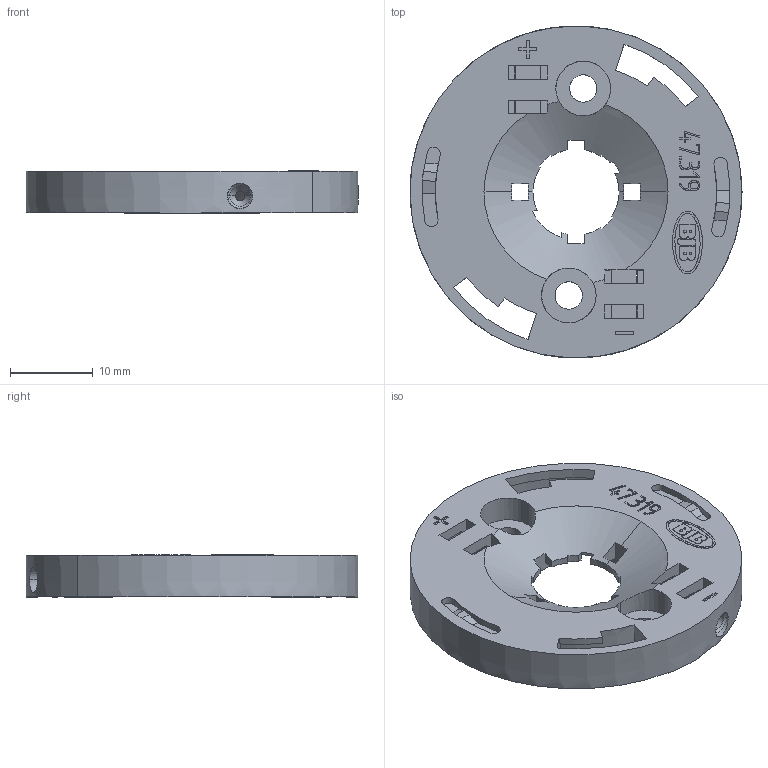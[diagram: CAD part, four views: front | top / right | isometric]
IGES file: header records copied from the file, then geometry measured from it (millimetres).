
Global section: file name: C:\CoreTechnologie\3D-in/01TYA8MY03.igs; native system: CT CoreTechnologie 3D Evolution; preprocessor: 2006; date: 1180911.083202; units: millimetre
Bounding box: 40 x 39.98 x 5.15 mm (x, y, z)
Volume: 2862.8 mm3; surface area: 5326.1 mm2
Topology: 1 solids, 5 shells, 611 faces, 1713 edges, 1143 vertices
Faces by surface type: plane 439, revolution 137, bspline 35
